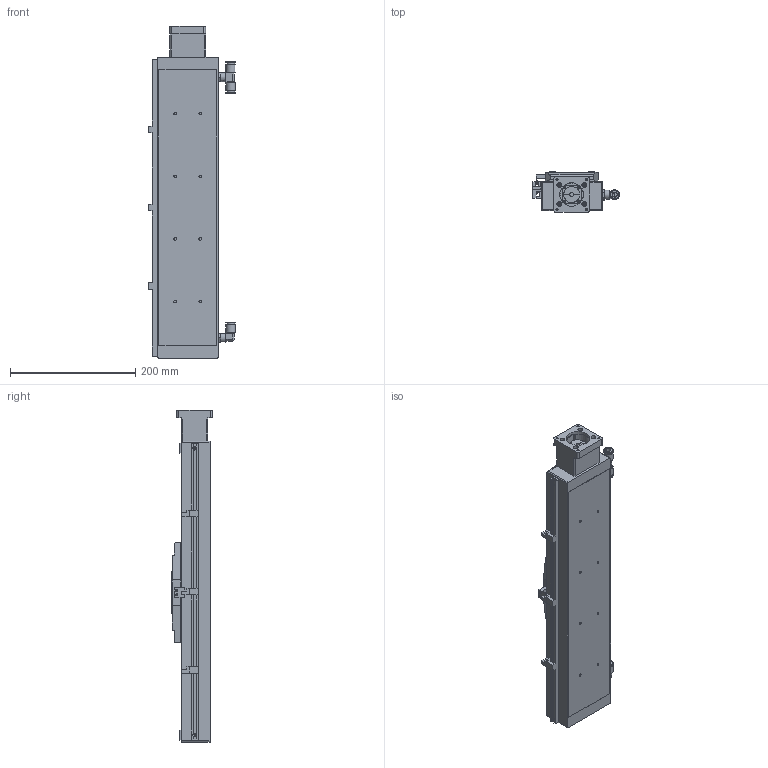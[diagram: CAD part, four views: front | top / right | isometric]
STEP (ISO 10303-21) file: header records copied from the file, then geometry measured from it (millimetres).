
FILE_DESCRIPTION((''),'2;1');
FILE_NAME('E:\libraries\UIA actuator library 2016\Clean room actuator\UIA098CR12DC\UIA098CR12 stp file 05May16\UIA098CR12DC-250-R16_ _-M23-P13-C10-S.stp','2016-05-09T14:34:01',('h029'),(''),'Autodesk Inventor 11','Autodesk Inventor 11','');
FILE_SCHEMA(('AUTOMOTIVE_DESIGN { 1 0 10303 214 1 1 1 1 }'));
Length unit declared in the file: millimetre
Products named in the file (12): UIA098CR12DC-250; body, UIA098CR12DC-250; carriage, UIA098CR12DC; Sensor Switch, UIA098CR12DC; SOH-25C; SOH-25C-2; SOH-25C-3; SOH-25C-1; Motor mount; Sensor Rail, UIA098CR12DC-250_MIR; vacuum port 1, UIA098CR12DC_MIR; vacuum port 2, UIA098CR12DC_MIR
Assembly tree (11 placements, depth 3):
  UIA098CR12DC-250
    body, UIA098CR12DC-250
    carriage, UIA098CR12DC
    Sensor Switch, UIA098CR12DC
    SOH-25C
      SOH-25C-2
      SOH-25C-3
      SOH-25C-1
    Motor mount
    Sensor Rail, UIA098CR12DC-250_MIR
    vacuum port 1, UIA098CR12DC_MIR
    vacuum port 2, UIA098CR12DC_MIR
Bounding box: 138.4 x 65.5 x 530 mm (x, y, z)
Volume: 2385073 mm3; surface area: 260042.5 mm2
Topology: 10 solids, 10 shells, 660 faces, 1725 edges, 1124 vertices
Faces by surface type: plane 295, bspline 276, cylinder 86, cone 3
Full cylindrical faces by diameter (mm): 3 x3, 5.6 x8, 8 x4, 9 x2, 10 x1, 13 x1, 15 x2, 18 x1, 25.5 x3, 37 x1, 38.1 x1
Entity records: 21447 total; most frequent: CARTESIAN_POINT 6260, ORIENTED_EDGE 3088, DIRECTION 2713, EDGE_CURVE 1544, VECTOR 1123, LINE 1123, VERTEX_POINT 1066, EDGE_LOOP 906
